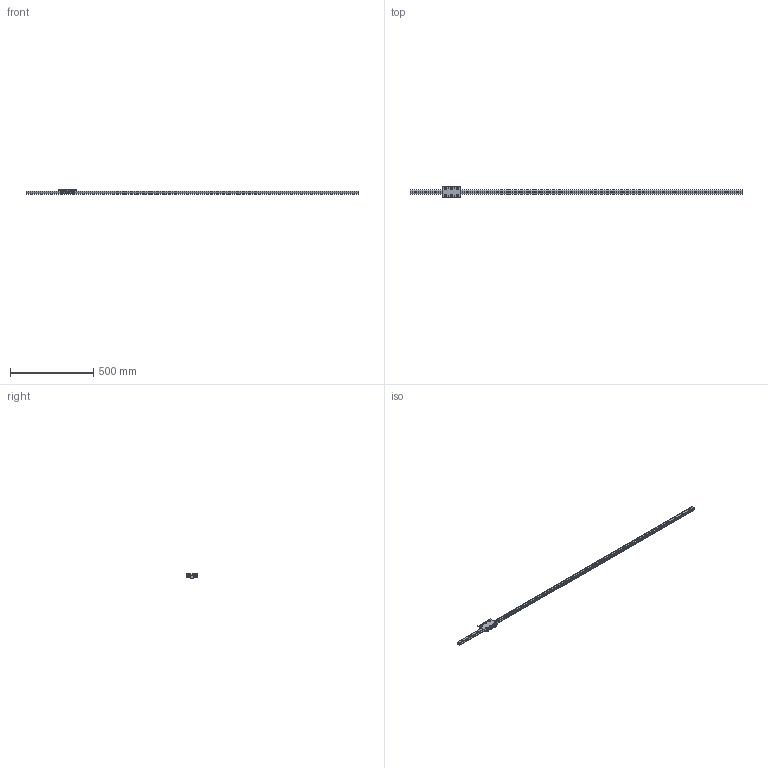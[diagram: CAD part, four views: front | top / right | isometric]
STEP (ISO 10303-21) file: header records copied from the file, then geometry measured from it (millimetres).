
FILE_DESCRIPTION((''),'2;1');
FILE_NAME('C:\Documents and Settings\土屋\My Documents\土屋移動用フォルダ\製品 (図面)\改正SPDRダウンロード用図面\step形式\SPDR25RL.stp','2017-07-18T16:49:01',('y'),(''),'Autodesk Inventor 11','Autodesk Inventor 11','');
FILE_SCHEMA(('AUTOMOTIVE_DESIGN { 1 0 10303 214 1 1 1 1 }'));
Length unit declared in the file: millimetre
Products named in the file (3): SPDR25RL; SPDR25RLレール; SPDR25RLキャリッジ
Assembly tree (2 placements, depth 2):
  SPDR25RL
    SPDR25RLレール
    SPDR25RLキャリッジ
Bounding box: 2000 x 65 x 25 mm (x, y, z)
Volume: 701602.3 mm3; surface area: 199898.7 mm2
Topology: 2 solids, 2 shells, 320 faces, 660 edges, 412 vertices
Faces by surface type: bspline 118, plane 90, cone 72, cylinder 40
Full cylindrical faces by diameter (mm): 6 x6, 10.6 x12, 20 x12
Entity records: 9396 total; most frequent: CARTESIAN_POINT 3427, DIRECTION 1120, ORIENTED_EDGE 1100, EDGE_LOOP 570, EDGE_CURVE 550, AXIS2_PLACEMENT_3D 507, VERTEX_POINT 412, FACE_OUTER_BOUND 320
